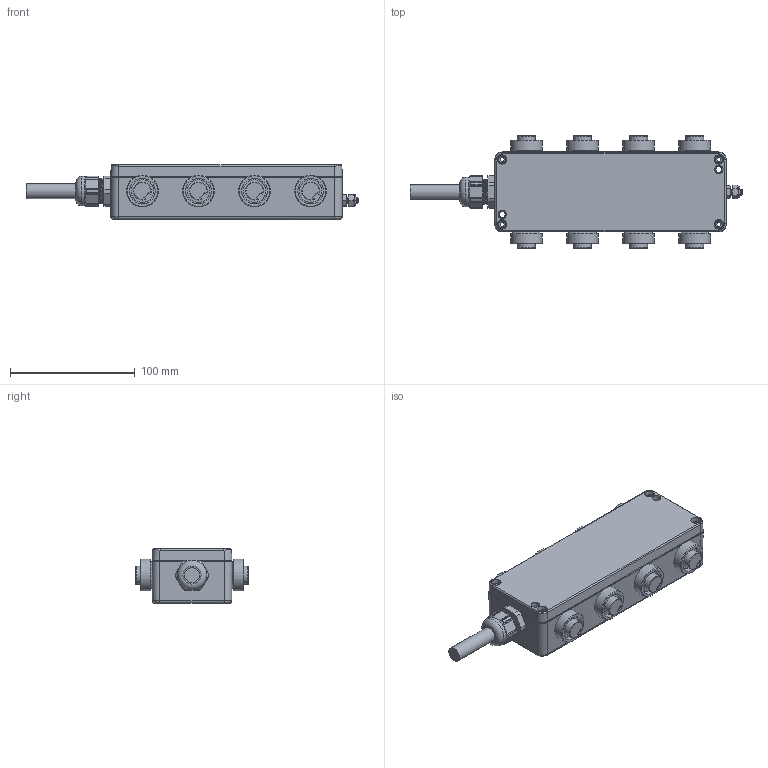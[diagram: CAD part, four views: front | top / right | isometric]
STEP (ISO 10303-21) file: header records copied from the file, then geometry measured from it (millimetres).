
FILE_DESCRIPTION (( 'STEP AP203' ), '1' );
FILE_NAME ('P-8_RKFV-Cable.step', '2020-06-15T14:06:57', ( '' ), ( '' ), 'SwSTEP 2.0', 'SolidWorks 2017', '' );
FILE_SCHEMA (( 'CONFIG_CONTROL_DESIGN' ));
Length unit declared in the file: millimetre
Products named in the file (1): P-8_RKFV-Cable
Bounding box: 265.76 x 90.2 x 43.5 mm (x, y, z)
Volume: 556232 mm3; surface area: 77878.7 mm2
Topology: 2 solids, 4 shells, 629 faces, 1520 edges, 949 vertices
Faces by surface type: plane 252, cylinder 199, cone 110, bspline 29, torus 23, sphere 16
Full cylindrical faces by diameter (mm): 3.861 x1, 4.13 x3, 6.502 x1, 6.6 x2, 8.89 x1, 12 x1, 15.7 x1, 18 x8, 20 x15, 20.5 x8, 22.5 x8, 23.6 x1, 25.4 x8
Entity records: 25551 total; most frequent: CARTESIAN_POINT 12518, DIRECTION 2608, ORIENTED_EDGE 2542, EDGE_CURVE 1271, AXIS2_PLACEMENT_3D 1050, VERTEX_POINT 881, EDGE_LOOP 868, FACE_OUTER_BOUND 677
